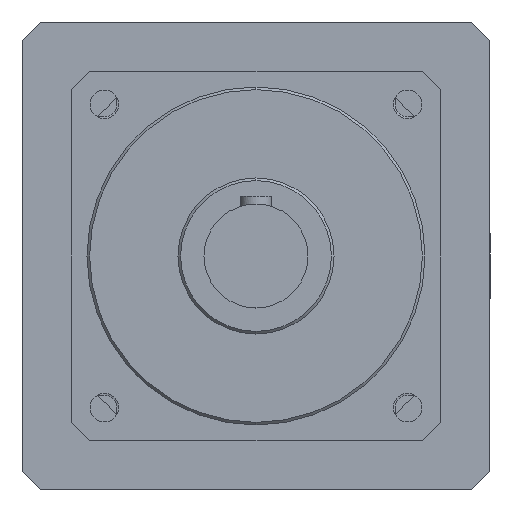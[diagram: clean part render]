
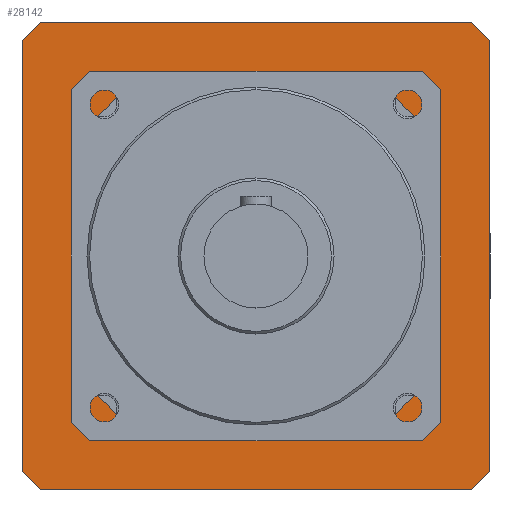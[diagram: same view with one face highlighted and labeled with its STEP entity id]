
A CAD part, front view. The second image highlights one B-rep face of the part: STEP entity #28142.
In plain terms, the highlighted planar face has unit normal (0, -1, 0).
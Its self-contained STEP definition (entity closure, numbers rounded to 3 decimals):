
#82 = CARTESIAN_POINT ( 'NONE',  ( -71., 54.5, 0. ) ) ;
#505 = VERTEX_POINT ( 'NONE', #33417 ) ;
#530 = CARTESIAN_POINT ( 'NONE',  ( -90., 54.5, 90. ) ) ;
#959 = DIRECTION ( 'NONE',  ( 0., 1., 0. ) ) ;
#1071 = CARTESIAN_POINT ( 'NONE',  ( 83., 54.5, -90. ) ) ;
#2071 = DIRECTION ( 'NONE',  ( 1., 0., 0. ) ) ;
#2881 = VECTOR ( 'NONE', #20492, 1000. ) ;
#3181 = CARTESIAN_POINT ( 'NONE',  ( -90., 54.5, -90. ) ) ;
#3432 = CARTESIAN_POINT ( 'NONE',  ( 0., 54.5, 0. ) ) ;
#3680 = VERTEX_POINT ( 'NONE', #15331 ) ;
#3950 = VECTOR ( 'NONE', #23207, 1000. ) ;
#4308 = VECTOR ( 'NONE', #6803, 1000. ) ;
#4671 = ORIENTED_EDGE ( 'NONE', *, *, #28718, .T. ) ;
#4828 = CARTESIAN_POINT ( 'NONE',  ( 83., 54.5, 90. ) ) ;
#5149 = LINE ( 'NONE', #6003, #34567 ) ;
#5359 = DIRECTION ( 'NONE',  ( 0., 0., -1. ) ) ;
#5363 = VERTEX_POINT ( 'NONE', #14449 ) ;
#5512 = ORIENTED_EDGE ( 'NONE', *, *, #20395, .F. ) ;
#6003 = CARTESIAN_POINT ( 'NONE',  ( -83., 54.5, -90. ) ) ;
#6118 = VERTEX_POINT ( 'NONE', #26557 ) ;
#6216 = VERTEX_POINT ( 'NONE', #1071 ) ;
#6322 = DIRECTION ( 'NONE',  ( 0., 0., -1. ) ) ;
#6388 = EDGE_CURVE ( 'NONE', #21294, #8528, #32172, .T. ) ;
#6407 = DIRECTION ( 'NONE',  ( 0., 0., 1. ) ) ;
#6803 = DIRECTION ( 'NONE',  ( -0.707, 0., -0.707 ) ) ;
#6875 = ORIENTED_EDGE ( 'NONE', *, *, #9019, .T. ) ;
#7220 = CIRCLE ( 'NONE', #21113, 81. ) ;
#8031 = DIRECTION ( 'NONE',  ( 0., 1., 0. ) ) ;
#8528 = VERTEX_POINT ( 'NONE', #25333 ) ;
#8905 = CIRCLE ( 'NONE', #24497, 81. ) ;
#9019 = EDGE_CURVE ( 'NONE', #6118, #21294, #8905, .T. ) ;
#9085 = PLANE ( 'NONE',  #14334 ) ;
#9366 = CARTESIAN_POINT ( 'NONE',  ( 90., 54.5, 90. ) ) ;
#9472 = VECTOR ( 'NONE', #2071, 1000. ) ;
#9730 = LINE ( 'NONE', #530, #24941 ) ;
#10278 = LINE ( 'NONE', #24463, #30279 ) ;
#10348 = VECTOR ( 'NONE', #17291, 1000. ) ;
#10374 = ORIENTED_EDGE ( 'NONE', *, *, #31059, .T. ) ;
#10449 = CARTESIAN_POINT ( 'NONE',  ( 0., 54.5, -71. ) ) ;
#11212 = LINE ( 'NONE', #82, #10348 ) ;
#11785 = LINE ( 'NONE', #22479, #27005 ) ;
#11798 = CARTESIAN_POINT ( 'NONE',  ( 90., 54.5, 83. ) ) ;
#11886 = CARTESIAN_POINT ( 'NONE',  ( 0., 54.5, 0. ) ) ;
#12301 = VECTOR ( 'NONE', #27638, 1000. ) ;
#13461 = EDGE_CURVE ( 'NONE', #8528, #3680, #22230, .T. ) ;
#13480 = ORIENTED_EDGE ( 'NONE', *, *, #27575, .T. ) ;
#13776 = ORIENTED_EDGE ( 'NONE', *, *, #30632, .F. ) ;
#13888 = EDGE_LOOP ( 'NONE', ( #5512, #35543, #16203, #17557, #24798, #13480, #13776, #10374 ) ) ;
#14057 = VERTEX_POINT ( 'NONE', #30554 ) ;
#14154 = ORIENTED_EDGE ( 'NONE', *, *, #6388, .T. ) ;
#14293 = ORIENTED_EDGE ( 'NONE', *, *, #16664, .T. ) ;
#14334 = AXIS2_PLACEMENT_3D ( 'NONE', #3432, #23468, #6322 ) ;
#14449 = CARTESIAN_POINT ( 'NONE',  ( 90., 54.5, -83. ) ) ;
#14746 = DIRECTION ( 'NONE',  ( 0., 0., -1. ) ) ;
#14894 = CARTESIAN_POINT ( 'NONE',  ( -90., 54.5, 83. ) ) ;
#15270 = CIRCLE ( 'NONE', #36969, 81. ) ;
#15331 = CARTESIAN_POINT ( 'NONE',  ( 71., 54.5, 38.987 ) ) ;
#15363 = VERTEX_POINT ( 'NONE', #20142 ) ;
#15878 = VERTEX_POINT ( 'NONE', #24931 ) ;
#15987 = CARTESIAN_POINT ( 'NONE',  ( 0., 54.5, 0. ) ) ;
#16203 = ORIENTED_EDGE ( 'NONE', *, *, #23534, .F. ) ;
#16664 = EDGE_CURVE ( 'NONE', #15878, #17522, #33270, .T. ) ;
#17188 = FACE_BOUND ( 'NONE', #29681, .T. ) ;
#17291 = DIRECTION ( 'NONE',  ( 0., 0., 1. ) ) ;
#17398 = CARTESIAN_POINT ( 'NONE',  ( -90., 54.5, -83. ) ) ;
#17522 = VERTEX_POINT ( 'NONE', #22845 ) ;
#17557 = ORIENTED_EDGE ( 'NONE', *, *, #23808, .T. ) ;
#18172 = CARTESIAN_POINT ( 'NONE',  ( 0., 54.5, 0. ) ) ;
#18199 = CARTESIAN_POINT ( 'NONE',  ( -90., 54.5, 83. ) ) ;
#18873 = DIRECTION ( 'NONE',  ( 0., 0., -1. ) ) ;
#18991 = EDGE_CURVE ( 'NONE', #3680, #505, #11785, .T. ) ;
#20142 = CARTESIAN_POINT ( 'NONE',  ( -83., 54.5, 90. ) ) ;
#20395 = EDGE_CURVE ( 'NONE', #6216, #31575, #25887, .T. ) ;
#20492 = DIRECTION ( 'NONE',  ( 0., 0., -1. ) ) ;
#20631 = DIRECTION ( 'NONE',  ( 1., 0., 0. ) ) ;
#21035 = DIRECTION ( 'NONE',  ( 0., 0., -1. ) ) ;
#21113 = AXIS2_PLACEMENT_3D ( 'NONE', #18172, #959, #21035 ) ;
#21294 = VERTEX_POINT ( 'NONE', #36001 ) ;
#22116 = CARTESIAN_POINT ( 'NONE',  ( 0., 54.5, 71. ) ) ;
#22121 = AXIS2_PLACEMENT_3D ( 'NONE', #15987, #35859, #18873 ) ;
#22230 = CIRCLE ( 'NONE', #22121, 81. ) ;
#22348 = EDGE_CURVE ( 'NONE', #6216, #5363, #10278, .T. ) ;
#22479 = CARTESIAN_POINT ( 'NONE',  ( 71., 54.5, 0. ) ) ;
#22845 = CARTESIAN_POINT ( 'NONE',  ( -38.987, 54.5, -71. ) ) ;
#23002 = FACE_OUTER_BOUND ( 'NONE', #13888, .T. ) ;
#23098 = CARTESIAN_POINT ( 'NONE',  ( -83., 54.5, -90. ) ) ;
#23138 = DIRECTION ( 'NONE',  ( 0.707, 0., -0.707 ) ) ;
#23175 = CARTESIAN_POINT ( 'NONE',  ( -90., 54.5, 90. ) ) ;
#23207 = DIRECTION ( 'NONE',  ( -1., 0., 0. ) ) ;
#23468 = DIRECTION ( 'NONE',  ( 0., -1., 0. ) ) ;
#23534 = EDGE_CURVE ( 'NONE', #34335, #5363, #24859, .T. ) ;
#23808 = EDGE_CURVE ( 'NONE', #34335, #33223, #36263, .T. ) ;
#24463 = CARTESIAN_POINT ( 'NONE',  ( 90., 54.5, -83. ) ) ;
#24497 = AXIS2_PLACEMENT_3D ( 'NONE', #25181, #8031, #27976 ) ;
#24798 = ORIENTED_EDGE ( 'NONE', *, *, #25184, .F. ) ;
#24859 = LINE ( 'NONE', #9366, #2881 ) ;
#24882 = DIRECTION ( 'NONE',  ( -0.707, 0., 0.707 ) ) ;
#24931 = CARTESIAN_POINT ( 'NONE',  ( 38.987, 54.5, -71. ) ) ;
#24941 = VECTOR ( 'NONE', #20631, 1000. ) ;
#25170 = ORIENTED_EDGE ( 'NONE', *, *, #13461, .T. ) ;
#25181 = CARTESIAN_POINT ( 'NONE',  ( 0., 54.5, 0. ) ) ;
#25184 = EDGE_CURVE ( 'NONE', #15363, #33223, #9730, .T. ) ;
#25333 = CARTESIAN_POINT ( 'NONE',  ( 38.987, 54.5, 71. ) ) ;
#25887 = LINE ( 'NONE', #3181, #3950 ) ;
#26557 = CARTESIAN_POINT ( 'NONE',  ( -71., 54.5, 38.987 ) ) ;
#27005 = VECTOR ( 'NONE', #5359, 1000. ) ;
#27575 = EDGE_CURVE ( 'NONE', #15363, #29889, #28842, .T. ) ;
#27638 = DIRECTION ( 'NONE',  ( -1., 0., 0. ) ) ;
#27833 = ORIENTED_EDGE ( 'NONE', *, *, #28820, .T. ) ;
#27976 = DIRECTION ( 'NONE',  ( 0., 0., -1. ) ) ;
#28142 = ADVANCED_FACE ( 'NONE', ( #23002, #17188 ), #9085, .T. ) ;
#28597 = CARTESIAN_POINT ( 'NONE',  ( 83., 54.5, 90. ) ) ;
#28718 = EDGE_CURVE ( 'NONE', #505, #15878, #15270, .T. ) ;
#28820 = EDGE_CURVE ( 'NONE', #17522, #14057, #7220, .T. ) ;
#28842 = LINE ( 'NONE', #18199, #4308 ) ;
#28860 = VECTOR ( 'NONE', #6407, 1000. ) ;
#29681 = EDGE_LOOP ( 'NONE', ( #31925, #4671, #14293, #27833, #32564, #6875, #14154, #25170 ) ) ;
#29756 = LINE ( 'NONE', #23175, #28860 ) ;
#29889 = VERTEX_POINT ( 'NONE', #14894 ) ;
#30095 = DIRECTION ( 'NONE',  ( 0.707, 0., 0.707 ) ) ;
#30279 = VECTOR ( 'NONE', #30095, 1000. ) ;
#30554 = CARTESIAN_POINT ( 'NONE',  ( -71., 54.5, -38.987 ) ) ;
#30599 = VERTEX_POINT ( 'NONE', #17398 ) ;
#30632 = EDGE_CURVE ( 'NONE', #30599, #29889, #29756, .T. ) ;
#31059 = EDGE_CURVE ( 'NONE', #30599, #31575, #5149, .T. ) ;
#31575 = VERTEX_POINT ( 'NONE', #23098 ) ;
#31809 = DIRECTION ( 'NONE',  ( 0., 1., 0. ) ) ;
#31925 = ORIENTED_EDGE ( 'NONE', *, *, #18991, .T. ) ;
#32172 = LINE ( 'NONE', #22116, #9472 ) ;
#32201 = EDGE_CURVE ( 'NONE', #14057, #6118, #11212, .T. ) ;
#32564 = ORIENTED_EDGE ( 'NONE', *, *, #32201, .T. ) ;
#33223 = VERTEX_POINT ( 'NONE', #28597 ) ;
#33270 = LINE ( 'NONE', #10449, #12301 ) ;
#33417 = CARTESIAN_POINT ( 'NONE',  ( 71., 54.5, -38.987 ) ) ;
#34335 = VERTEX_POINT ( 'NONE', #11798 ) ;
#34567 = VECTOR ( 'NONE', #23138, 1000. ) ;
#35400 = VECTOR ( 'NONE', #24882, 1000. ) ;
#35543 = ORIENTED_EDGE ( 'NONE', *, *, #22348, .T. ) ;
#35859 = DIRECTION ( 'NONE',  ( 0., 1., 0. ) ) ;
#36001 = CARTESIAN_POINT ( 'NONE',  ( -38.987, 54.5, 71. ) ) ;
#36263 = LINE ( 'NONE', #4828, #35400 ) ;
#36969 = AXIS2_PLACEMENT_3D ( 'NONE', #11886, #31809, #14746 ) ;
